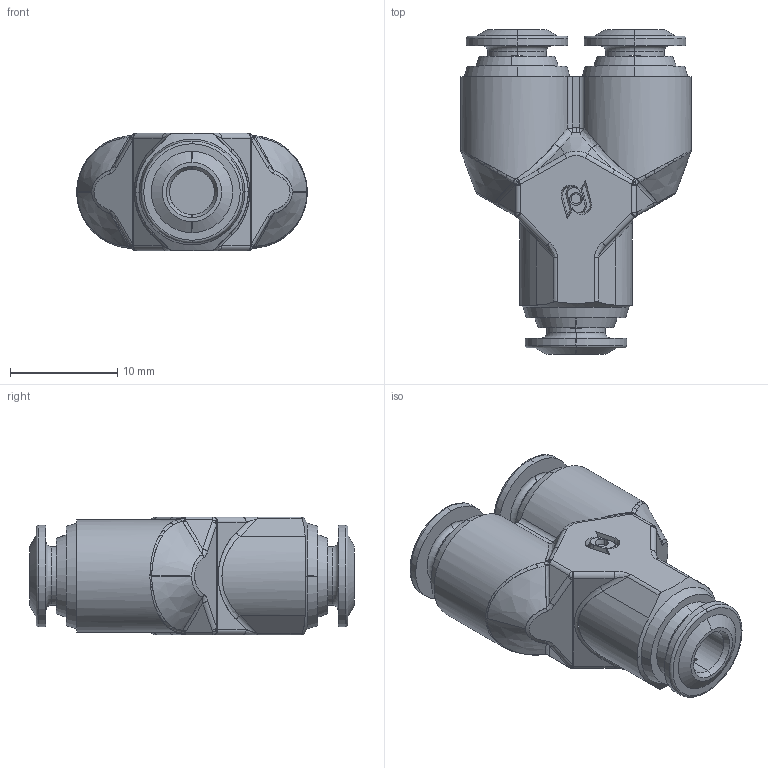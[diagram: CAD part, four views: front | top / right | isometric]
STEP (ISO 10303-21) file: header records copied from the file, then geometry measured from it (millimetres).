
FILE_DESCRIPTION(/* description */ (''),/* implementation_level */ '2;1');
FILE_NAME(/* name */ 'K:\praktykant1\Tomasz Zadworny\Aignep\57310 4\57310 4.stp',/* time_stamp */ '2014-07-02T13:29:14+02:00',/* author */ ('Praktykant1'),/* organization */ (''),/* preprocessor_version */ 'ST-DEVELOPER v15.6',/* originating_system */ 'Autodesk Inventor 2015',/* authorisation */ '');
FILE_SCHEMA (('AUTOMOTIVE_DESIGN { 1 0 10303 214 3 1 1 }'));
Length unit declared in the file: millimetre
Products named in the file (1): 57310 4
Bounding box: 21.5 x 30.3 x 11 mm (x, y, z)
Surface area: 2081.3 mm2 (no closed solid volume)
Topology: 0 solids, 302 shells, 302 faces, 1423 edges, 1407 vertices
Faces by surface type: bspline 90, plane 75, cylinder 60, cone 46, torus 19, sphere 12
Entity records: 19645 total; most frequent: CARTESIAN_POINT 8435, DIRECTION 2230, VERTEX_POINT 1407, EDGE_CURVE 1407, ORIENTED_EDGE 1407, AXIS2_PLACEMENT_3D 891, CIRCLE 594, LINE 448
